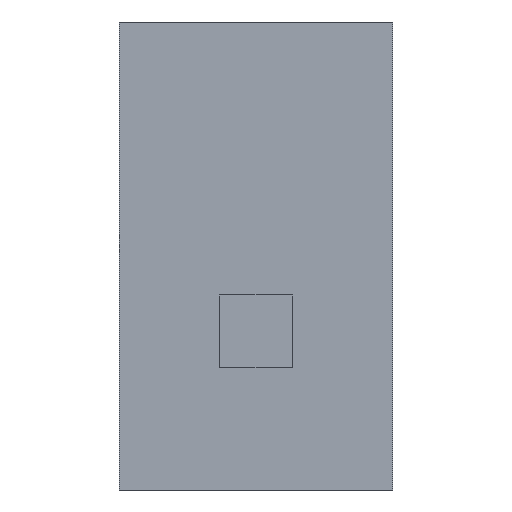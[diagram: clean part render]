
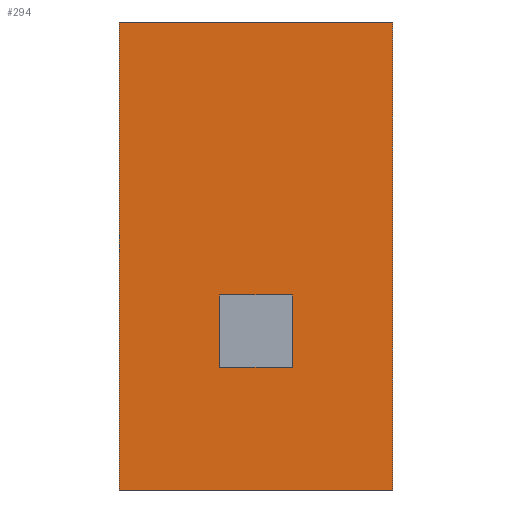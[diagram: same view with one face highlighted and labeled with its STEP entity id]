
A CAD part, front view. The second image highlights one B-rep face of the part: STEP entity #294.
In plain terms, the highlighted planar face has unit normal (0, -1, 0).
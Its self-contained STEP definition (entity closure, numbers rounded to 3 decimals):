
#37=DIRECTION('',(0.,0.,1.));
#38=VECTOR('',#37,1.85);
#39=CARTESIAN_POINT('',(0.925,2.3,-2.85));
#40=LINE('',#39,#38);
#41=DIRECTION('',(-1.,0.,0.));
#42=VECTOR('',#41,1.85);
#43=CARTESIAN_POINT('',(0.925,2.3,-1.));
#44=LINE('',#43,#42);
#45=DIRECTION('',(0.,0.,-1.));
#46=VECTOR('',#45,1.85);
#47=CARTESIAN_POINT('',(-0.925,2.3,-1.));
#48=LINE('',#47,#46);
#49=DIRECTION('',(1.,0.,0.));
#50=VECTOR('',#49,1.85);
#51=CARTESIAN_POINT('',(-0.925,2.3,-2.85));
#52=LINE('',#51,#50);
#53=DIRECTION('',(1.,0.,0.));
#54=VECTOR('',#53,7.);
#55=CARTESIAN_POINT('',(-3.5,2.3,6.));
#56=LINE('',#55,#54);
#57=DIRECTION('',(-1.,0.,0.));
#58=VECTOR('',#57,7.);
#59=CARTESIAN_POINT('',(3.5,2.3,-6.));
#60=LINE('',#59,#58);
#93=DIRECTION('',(0.,0.,-1.));
#94=VECTOR('',#93,12.);
#95=CARTESIAN_POINT('',(3.5,2.3,6.));
#96=LINE('',#95,#94);
#105=DIRECTION('',(0.,0.,1.));
#106=VECTOR('',#105,12.);
#107=CARTESIAN_POINT('',(-3.5,2.3,-6.));
#108=LINE('',#107,#106);
#189=CARTESIAN_POINT('',(0.925,2.3,-2.85));
#190=CARTESIAN_POINT('',(0.925,2.3,-1.));
#191=VERTEX_POINT('',#189);
#192=VERTEX_POINT('',#190);
#193=CARTESIAN_POINT('',(-0.925,2.3,-1.));
#194=VERTEX_POINT('',#193);
#195=CARTESIAN_POINT('',(-0.925,2.3,-2.85));
#196=VERTEX_POINT('',#195);
#221=CARTESIAN_POINT('',(3.5,2.3,6.));
#222=CARTESIAN_POINT('',(3.5,2.3,-6.));
#223=VERTEX_POINT('',#221);
#224=VERTEX_POINT('',#222);
#225=CARTESIAN_POINT('',(-3.5,2.3,-6.));
#226=CARTESIAN_POINT('',(-3.5,2.3,6.));
#227=VERTEX_POINT('',#225);
#228=VERTEX_POINT('',#226);
#270=CARTESIAN_POINT('',(1.9,2.3,6.));
#271=DIRECTION('',(0.,1.,0.));
#272=DIRECTION('',(-1.,0.,0.));
#273=AXIS2_PLACEMENT_3D('',#270,#271,#272);
#274=PLANE('',#273);
#275=ORIENTED_EDGE('',*,*,#260,.T.);
#277=ORIENTED_EDGE('',*,*,#276,.T.);
#279=ORIENTED_EDGE('',*,*,#278,.T.);
#281=ORIENTED_EDGE('',*,*,#280,.T.);
#282=EDGE_LOOP('',(#275,#277,#279,#281));
#283=FACE_OUTER_BOUND('',#282,.F.);
#285=ORIENTED_EDGE('',*,*,#284,.T.);
#287=ORIENTED_EDGE('',*,*,#286,.T.);
#289=ORIENTED_EDGE('',*,*,#288,.T.);
#291=ORIENTED_EDGE('',*,*,#290,.T.);
#292=EDGE_LOOP('',(#285,#287,#289,#291));
#293=FACE_BOUND('',#292,.F.);
#294=ADVANCED_FACE('',(#283,#293),#274,.F.);
#260=EDGE_CURVE('',#228,#223,#56,.T.);
#276=EDGE_CURVE('',#223,#224,#96,.T.);
#278=EDGE_CURVE('',#224,#227,#60,.T.);
#280=EDGE_CURVE('',#227,#228,#108,.T.);
#284=EDGE_CURVE('',#191,#192,#40,.T.);
#286=EDGE_CURVE('',#192,#194,#44,.T.);
#288=EDGE_CURVE('',#194,#196,#48,.T.);
#290=EDGE_CURVE('',#196,#191,#52,.T.);
